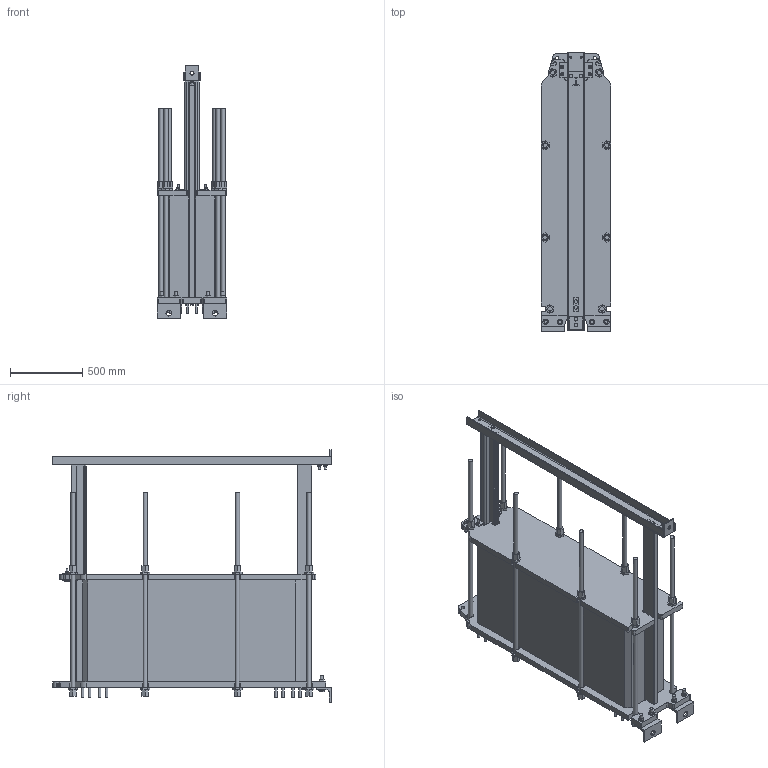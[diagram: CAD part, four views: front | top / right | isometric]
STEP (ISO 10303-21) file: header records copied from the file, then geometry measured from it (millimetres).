
FILE_DESCRIPTION((''),'2;1');
FILE_NAME('c:\temp\TL10_FG_LC1500_AL_01_REV0.stp','2009-06-24T12:05:00',('CNSHFLU'),(''),'Autodesk Inventor 2008','Autodesk Inventor 2008','');
FILE_SCHEMA(('AUTOMOTIVE_DESIGN { 1 0 10303 214 1 1 1 1 }'));
Length unit declared in the file: millimetre
Products named in the file (1): TL10
Bounding box: 483 x 1923 x 1745 mm (x, y, z)
Volume: 456613715.5 mm3; surface area: 10188480.1 mm2
Topology: 1 solids, 5 shells, 1389 faces, 3632 edges, 2404 vertices
Faces by surface type: plane 750, cylinder 350, bspline 287, cone 2
Full cylindrical faces by diameter (mm): 3.75 x4, 13 x8, 14 x6, 14.2 x2, 16 x34, 22 x9, 24 x10, 28 x1, 30 x8, 37 x4, 40 x2, 60 x1, 100 x4, 110 x4
Entity records: 42421 total; most frequent: CARTESIAN_POINT 8556, ORIENTED_EDGE 6970, DIRECTION 6489, EDGE_CURVE 3485, VECTOR 2687, LINE 2687, VERTEX_POINT 2386, AXIS2_PLACEMENT_3D 1901
